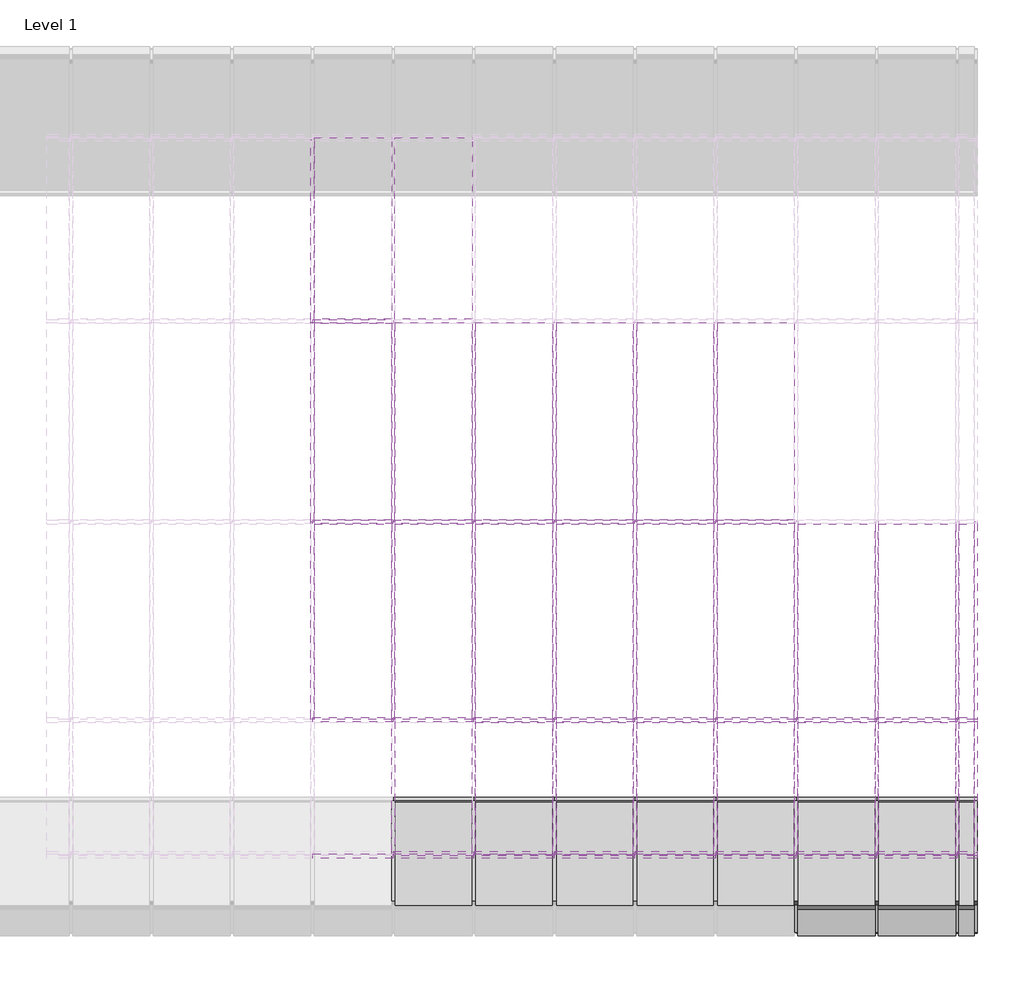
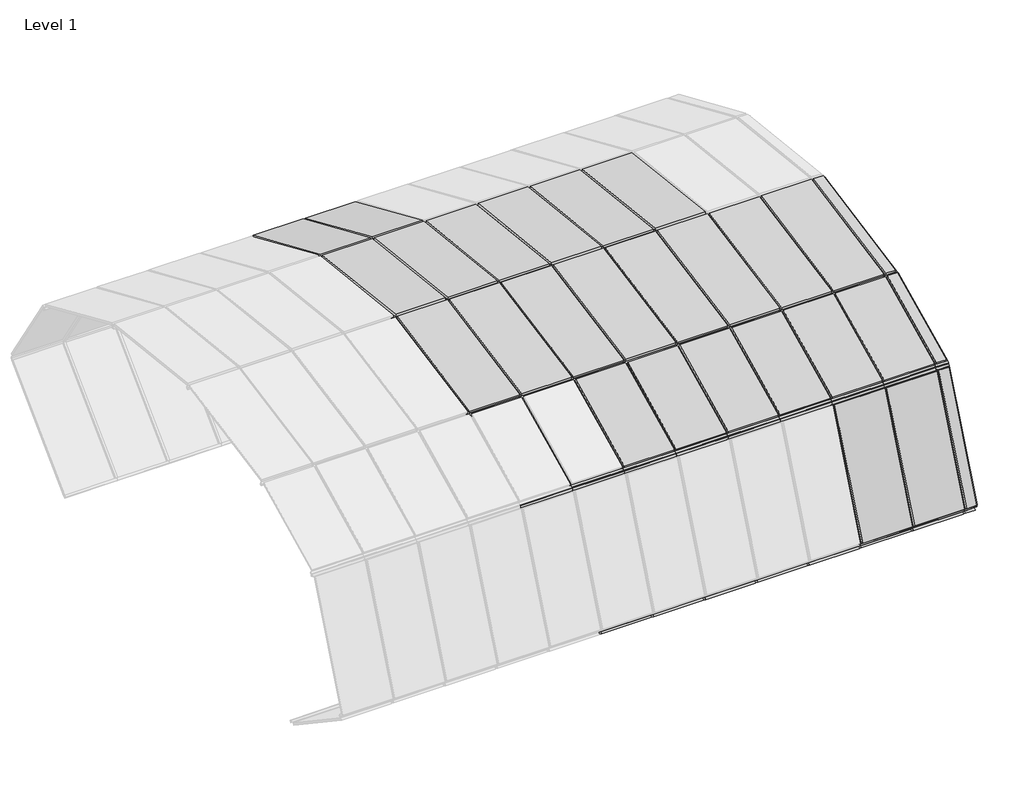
# One storey, part 21 of 23: 83 members, 35 plates.
"""IFC4 building model written with IfcOpenShell, lengths in millimetres."""

from ifc_helpers import new_model, si_unit, origin, place, context, project, spatial, transform, mapped, element, save
from components import member_0f8f75f6, member_68981e21, member_e752087b, member_3e1f1dd8, member_fea202f7, member_42213d33, member_1ddaab60, member_88d46f17, member_14e241b9, member_67cfadff, member_309acb9e, member_1d69e541, member_934386c6, system_panel_glazed_36155e08, system_panel_glazed_4484050c, system_panel_glazed_af514bd4, system_panel_glazed_680ba1d7, system_panel_glazed_e96a6bf3, system_panel_glazed_a8ce3bc7, system_panel_glazed_036eda8b, system_panel_glazed_d0e7d8c0

model = new_model("IFC4")

# Units and contexts
model_context = context("Model", 3, world=origin())
ifc_project = project(units=[si_unit("LENGTHUNIT", "METRE", prefix="MILLI")], contexts=[model_context])

# Site, building, storey
site = spatial("IfcSite", under=ifc_project)
building = spatial("IfcBuilding", under=site)
storey = spatial("IfcBuildingStorey", under=building, Name="Level 1", Elevation=0.0)

# Members
placement = place(None, origin())
member_shape = member_0f8f75f6(model_context)
element("IfcMember", 1, ObjectType="Rectangular Mullion : 1\" Square", at=placement, inside=storey, context=model_context, shape_type="MappedRepresentation", body=[
    mapped(member_shape, transform((1059.8500186, 2518.7804857, 14.1400027), x_axis=(1.0, 0.0, 0.0), y_axis=(0.0, -0.5566930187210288, -0.8307182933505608), z_axis=(0.0, 0.8307182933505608, -0.5566930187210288))),
])
element("IfcMember", 2, ObjectType="Rectangular Mullion : 1\" Square", at=placement, inside=storey, context=model_context, shape_type="MappedRepresentation", body=[
    mapped(member_shape, transform((1669.4500186, 2518.7804857, 14.1400027), x_axis=(1.0, 0.0, 0.0), y_axis=(0.0, -0.5566930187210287, -0.8307182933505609), z_axis=(0.0, 0.8307182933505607, -0.5566930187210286))),
])
element("IfcMember", 3, ObjectType="Rectangular Mullion : 1\" Square", at=placement, inside=storey, context=model_context, shape_type="MappedRepresentation", body=[
    mapped(member_shape, transform((2279.0500186, 2518.7804857, 14.1400027), x_axis=(1.0, 0.0, 0.0), y_axis=(0.0, -0.5566930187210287, -0.8307182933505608), z_axis=(0.0, 0.8307182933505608, -0.5566930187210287))),
])
element("IfcMember", 4, ObjectType="Rectangular Mullion : 1\" Square", at=placement, inside=storey, context=model_context, shape_type="MappedRepresentation", body=[
    mapped(member_shape, transform((2888.6500186, 2518.7804857, 14.1400027), x_axis=(1.0, 0.0, 0.0), y_axis=(0.0, -0.5566930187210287, -0.8307182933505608), z_axis=(0.0, 0.8307182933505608, -0.5566930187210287))),
])
element("IfcMember", 5, ObjectType="Rectangular Mullion : 1\" Square", at=placement, inside=storey, context=model_context, shape_type="MappedRepresentation", body=[
    mapped(member_shape, transform((3498.2500186, 2518.7804857, 14.1400027), x_axis=(1.0, 0.0, 0.0), y_axis=(0.0, -0.5566930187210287, -0.8307182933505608), z_axis=(0.0, 0.8307182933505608, -0.5566930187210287))),
])
element("IfcMember", 6, ObjectType="Rectangular Mullion : 1\" Square", at=placement, inside=storey, context=model_context, shape_type="MappedRepresentation", body=[
    mapped(member_shape, transform((4107.8500186, 2518.7804857, 14.1400027), x_axis=(1.0, 0.0, 0.0), y_axis=(0.0, -0.5566930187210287, -0.8307182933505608), z_axis=(0.0, 0.8307182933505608, -0.5566930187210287))),
])
element("IfcMember", 7, ObjectType="Rectangular Mullion : 1\" Square", at=placement, inside=storey, context=model_context, shape_type="MappedRepresentation", body=[
    mapped(member_shape, transform((4717.4500186, 2518.7804857, 14.1400027), x_axis=(1.0, 0.0, 0.0), y_axis=(0.0, -0.5566930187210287, -0.8307182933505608), z_axis=(0.0, 0.8307182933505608, -0.5566930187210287))),
])
member_2_shape = member_68981e21(model_context)
element("IfcMember", 8, ObjectType="Rectangular Mullion : 1\" Square", at=placement, inside=storey, context=model_context, shape_type="MappedRepresentation", body=[
    mapped(member_2_shape, transform((1059.8500186, 2539.8807303, 0.0), x_axis=(0.0, 0.8307182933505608, -0.5566930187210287), y_axis=(0.0, -0.5566930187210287, -0.8307182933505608), z_axis=(-1.0, 0.0, 0.0))),
])
element("IfcMember", 9, ObjectType="Rectangular Mullion : 1\" Square", at=placement, inside=storey, context=model_context, shape_type="MappedRepresentation", body=[
    mapped(member_2_shape, transform((1669.4500186, 2539.8807303, 0.0), x_axis=(0.0, 0.8307182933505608, -0.5566930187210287), y_axis=(0.0, -0.5566930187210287, -0.8307182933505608), z_axis=(-1.0, 0.0, 0.0))),
])
element("IfcMember", 10, ObjectType="Rectangular Mullion : 1\" Square", at=placement, inside=storey, context=model_context, shape_type="MappedRepresentation", body=[
    mapped(member_2_shape, transform((2279.0500186, 2539.8807303, 0.0), x_axis=(0.0, 0.8307182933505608, -0.5566930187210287), y_axis=(0.0, -0.5566930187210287, -0.8307182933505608), z_axis=(-1.0, 0.0, 0.0))),
])
element("IfcMember", 11, ObjectType="Rectangular Mullion : 1\" Square", at=placement, inside=storey, context=model_context, shape_type="MappedRepresentation", body=[
    mapped(member_2_shape, transform((2888.6500186, 2539.8807303, 0.0), x_axis=(0.0, 0.8307182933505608, -0.5566930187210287), y_axis=(0.0, -0.5566930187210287, -0.8307182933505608), z_axis=(-1.0, 0.0, 0.0))),
])
element("IfcMember", 12, ObjectType="Rectangular Mullion : 1\" Square", at=placement, inside=storey, context=model_context, shape_type="MappedRepresentation", body=[
    mapped(member_2_shape, transform((3498.2500186, 2539.8807303, 0.0), x_axis=(0.0, 0.8307182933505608, -0.5566930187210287), y_axis=(0.0, -0.5566930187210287, -0.8307182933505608), z_axis=(-1.0, 0.0, 0.0))),
])
element("IfcMember", 13, ObjectType="Rectangular Mullion : 1\" Square", at=placement, inside=storey, context=model_context, shape_type="MappedRepresentation", body=[
    mapped(member_2_shape, transform((4107.8500186, 2539.8807303, 0.0), x_axis=(0.0, 0.8307182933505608, -0.5566930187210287), y_axis=(0.0, -0.5566930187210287, -0.8307182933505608), z_axis=(-1.0, 0.0, 0.0))),
])
element("IfcMember", 14, ObjectType="Rectangular Mullion : 1\" Square", at=placement, inside=storey, context=model_context, shape_type="MappedRepresentation", body=[
    mapped(member_2_shape, transform((4717.4500186, 2539.8807303, 0.0), x_axis=(0.0, 0.8307182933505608, -0.5566930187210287), y_axis=(0.0, -0.5566930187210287, -0.8307182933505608), z_axis=(-1.0, 0.0, 0.0))),
])
element("IfcMember", 15, ObjectType="Rectangular Mullion : 1\" Square", at=placement, inside=storey, context=model_context, shape_type="MappedRepresentation", body=[
    mapped(member_2_shape, transform((1059.8500186, 2108.5088854, 2085.6089632), x_axis=(0.0, -0.9009025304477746, -0.4340214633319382), y_axis=(0.0, -0.4340214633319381, 0.9009025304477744), z_axis=(-1.0, 0.0, 0.0))),
])
element("IfcMember", 16, ObjectType="Rectangular Mullion : 1\" Square", at=placement, inside=storey, context=model_context, shape_type="MappedRepresentation", body=[
    mapped(member_2_shape, transform((1669.4500186, 2108.5088854, 2085.6089632), x_axis=(0.0, -0.9009025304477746, -0.4340214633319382), y_axis=(0.0, -0.4340214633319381, 0.9009025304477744), z_axis=(-1.0, 0.0, 0.0))),
])
element("IfcMember", 17, ObjectType="Rectangular Mullion : 1\" Square", at=placement, inside=storey, context=model_context, shape_type="MappedRepresentation", body=[
    mapped(member_2_shape, transform((2279.0500186, 2108.5088854, 2085.6089632), x_axis=(0.0, -0.9009025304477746, -0.4340214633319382), y_axis=(0.0, -0.4340214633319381, 0.9009025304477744), z_axis=(-1.0, 0.0, 0.0))),
])
element("IfcMember", 18, ObjectType="Rectangular Mullion : 1\" Square", at=placement, inside=storey, context=model_context, shape_type="MappedRepresentation", body=[
    mapped(member_2_shape, transform((2888.6500186, 2108.5088854, 2085.6089632), x_axis=(0.0, -0.9009025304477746, -0.4340214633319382), y_axis=(0.0, -0.4340214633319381, 0.9009025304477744), z_axis=(-1.0, 0.0, 0.0))),
])
element("IfcMember", 19, ObjectType="Rectangular Mullion : 1\" Square", at=placement, inside=storey, context=model_context, shape_type="MappedRepresentation", body=[
    mapped(member_2_shape, transform((3498.2500186, 2108.5088854, 2085.6089632), x_axis=(0.0, -0.9009025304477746, -0.4340214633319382), y_axis=(0.0, -0.4340214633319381, 0.9009025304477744), z_axis=(-1.0, 0.0, 0.0))),
])
element("IfcMember", 20, ObjectType="Rectangular Mullion : 1\" Square", at=placement, inside=storey, context=model_context, shape_type="MappedRepresentation", body=[
    mapped(member_2_shape, transform((4107.8500186, 2108.5088854, 2085.6089632), x_axis=(0.0, -0.9009025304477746, -0.4340214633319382), y_axis=(0.0, -0.4340214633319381, 0.9009025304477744), z_axis=(-1.0, 0.0, 0.0))),
])
element("IfcMember", 21, ObjectType="Rectangular Mullion : 1\" Square", at=placement, inside=storey, context=model_context, shape_type="MappedRepresentation", body=[
    mapped(member_2_shape, transform((4717.4500186, 2108.5088854, 2085.6089632), x_axis=(0.0, -0.9009025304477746, -0.4340214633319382), y_axis=(0.0, -0.4340214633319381, 0.9009025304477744), z_axis=(-1.0, 0.0, 0.0))),
])
member_3_shape = member_e752087b(model_context)
element("IfcMember", 22, ObjectType="Rectangular Mullion : 1\" Square", at=placement, inside=storey, context=model_context, shape_type="MappedRepresentation", body=[
    mapped(member_3_shape, transform((5327.0500186, 2539.8807303, 0.0), x_axis=(0.0, 0.8307182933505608, -0.5566930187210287), y_axis=(0.0, -0.5566930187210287, -0.8307182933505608), z_axis=(-1.0, 0.0, 0.0))),
])
element("IfcMember", 23, ObjectType="Rectangular Mullion : 1\" Square", at=placement, inside=storey, context=model_context, shape_type="MappedRepresentation", body=[
    mapped(member_3_shape, transform((5327.0500186, 2108.5088854, 2085.6089632), x_axis=(0.0, -0.9009025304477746, -0.4340214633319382), y_axis=(0.0, -0.4340214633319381, 0.9009025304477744), z_axis=(-1.0, 0.0, 0.0))),
])
member_4_shape = member_3e1f1dd8(model_context)
element("IfcMember", 24, ObjectType="Rectangular Mullion : 1\" Square", at=placement, inside=storey, context=model_context, shape_type="MappedRepresentation", body=[
    mapped(member_4_shape, transform((4107.8500186, 1534.1192339, 673.9955146), x_axis=(0.0, 0.38018576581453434, -0.9249101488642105), y_axis=(0.0, -0.9249101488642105, -0.38018576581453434), z_axis=(-1.0, 0.0, 0.0))),
])
element("IfcMember", 25, ObjectType="Rectangular Mullion : 1\" Square", at=placement, inside=storey, context=model_context, shape_type="MappedRepresentation", body=[
    mapped(member_4_shape, transform((4717.4500186, 1534.1192339, 673.9955146), x_axis=(0.0, 0.38018576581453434, -0.9249101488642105), y_axis=(0.0, -0.9249101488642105, -0.38018576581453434), z_axis=(-1.0, 0.0, 0.0))),
])
element("IfcMember", 26, ObjectType="Rectangular Mullion : 1\" Square", at=placement, inside=storey, context=model_context, shape_type="MappedRepresentation", body=[
    mapped(member_4_shape, transform((450.2500186, 4631.6132499, 2864.1651971), x_axis=(0.0, -0.9992773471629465, -0.038010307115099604), y_axis=(0.0, -0.038010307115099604, 0.9992773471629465), z_axis=(-1.0, 0.0, 0.0))),
])
element("IfcMember", 27, ObjectType="Rectangular Mullion : 1\" Square", at=placement, inside=storey, context=model_context, shape_type="MappedRepresentation", body=[
    mapped(member_4_shape, transform((1059.8500186, 4631.6132499, 2864.1651971), x_axis=(0.0, -0.9992773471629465, -0.038010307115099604), y_axis=(0.0, -0.038010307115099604, 0.9992773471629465), z_axis=(-1.0, 0.0, 0.0))),
])
element("IfcMember", 28, ObjectType="Rectangular Mullion : 1\" Square", at=placement, inside=storey, context=model_context, shape_type="MappedRepresentation", body=[
    mapped(member_4_shape, transform((1669.4500186, 4631.6132499, 2864.1651971), x_axis=(0.0, -0.9992773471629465, -0.038010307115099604), y_axis=(0.0, -0.038010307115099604, 0.9992773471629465), z_axis=(-1.0, 0.0, 0.0))),
])
element("IfcMember", 29, ObjectType="Rectangular Mullion : 1\" Square", at=placement, inside=storey, context=model_context, shape_type="MappedRepresentation", body=[
    mapped(member_4_shape, transform((2279.0500186, 4631.6132499, 2864.1651971), x_axis=(0.0, -0.9992773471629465, -0.038010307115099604), y_axis=(0.0, -0.038010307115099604, 0.9992773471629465), z_axis=(-1.0, 0.0, 0.0))),
])
element("IfcMember", 30, ObjectType="Rectangular Mullion : 1\" Square", at=placement, inside=storey, context=model_context, shape_type="MappedRepresentation", body=[
    mapped(member_4_shape, transform((2888.6500186, 4631.6132499, 2864.1651971), x_axis=(0.0, -0.9992773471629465, -0.038010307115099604), y_axis=(0.0, -0.038010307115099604, 0.9992773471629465), z_axis=(-1.0, 0.0, 0.0))),
])
element("IfcMember", 31, ObjectType="Rectangular Mullion : 1\" Square", at=placement, inside=storey, context=model_context, shape_type="MappedRepresentation", body=[
    mapped(member_4_shape, transform((3498.2500186, 4631.6132499, 2864.1651971), x_axis=(0.0, -0.9992773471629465, -0.038010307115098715), y_axis=(0.0, -0.038010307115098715, 0.9992773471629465), z_axis=(-1.0, 0.0, 0.0))),
])
element("IfcMember", 32, ObjectType="Rectangular Mullion : 1\" Square", at=placement, inside=storey, context=model_context, shape_type="MappedRepresentation", body=[
    mapped(member_4_shape, transform((450.2500186, 3134.3722562, 2579.8319299), x_axis=(0.0, -0.9436447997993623, -0.3309599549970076), y_axis=(0.0, -0.3309599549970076, 0.9436447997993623), z_axis=(-1.0, 0.0, 0.0))),
])
element("IfcMember", 33, ObjectType="Rectangular Mullion : 1\" Square", at=placement, inside=storey, context=model_context, shape_type="MappedRepresentation", body=[
    mapped(member_4_shape, transform((1059.8500186, 3134.3722562, 2579.8319299), x_axis=(0.0, -0.9436447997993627, -0.33095995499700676), y_axis=(0.0, -0.33095995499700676, 0.9436447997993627), z_axis=(-1.0, 0.0, 0.0))),
])
element("IfcMember", 34, ObjectType="Rectangular Mullion : 1\" Square", at=placement, inside=storey, context=model_context, shape_type="MappedRepresentation", body=[
    mapped(member_4_shape, transform((1669.4500186, 3134.3722562, 2579.8319299), x_axis=(0.0, -0.9436447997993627, -0.33095995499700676), y_axis=(0.0, -0.33095995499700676, 0.9436447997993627), z_axis=(-1.0, 0.0, 0.0))),
])
element("IfcMember", 35, ObjectType="Rectangular Mullion : 1\" Square", at=placement, inside=storey, context=model_context, shape_type="MappedRepresentation", body=[
    mapped(member_4_shape, transform((2279.0500186, 3134.3722562, 2579.8319299), x_axis=(0.0, -0.9436447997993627, -0.33095995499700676), y_axis=(0.0, -0.33095995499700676, 0.9436447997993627), z_axis=(-1.0, 0.0, 0.0))),
])
element("IfcMember", 36, ObjectType="Rectangular Mullion : 1\" Square", at=placement, inside=storey, context=model_context, shape_type="MappedRepresentation", body=[
    mapped(member_4_shape, transform((2888.6500186, 3134.3722562, 2579.8319299), x_axis=(0.0, -0.9436447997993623, -0.3309599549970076), y_axis=(0.0, -0.3309599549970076, 0.9436447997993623), z_axis=(-1.0, 0.0, 0.0))),
])
element("IfcMember", 37, ObjectType="Rectangular Mullion : 1\" Square", at=placement, inside=storey, context=model_context, shape_type="MappedRepresentation", body=[
    mapped(member_4_shape, transform((3498.2500186, 3134.3722562, 2579.8319299), x_axis=(0.0, -0.9436447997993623, -0.3309599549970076), y_axis=(0.0, -0.3309599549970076, 0.9436447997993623), z_axis=(-1.0, 0.0, 0.0))),
])
element("IfcMember", 38, ObjectType="Rectangular Mullion : 1\" Square", at=placement, inside=storey, context=model_context, shape_type="MappedRepresentation", body=[
    mapped(member_4_shape, transform((4107.8500186, 3134.3722562, 2579.8319299), x_axis=(0.0, -0.9436447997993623, -0.3309599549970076), y_axis=(0.0, -0.3309599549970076, 0.9436447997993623), z_axis=(-1.0, 0.0, 0.0))),
])
element("IfcMember", 39, ObjectType="Rectangular Mullion : 1\" Square", at=placement, inside=storey, context=model_context, shape_type="MappedRepresentation", body=[
    mapped(member_4_shape, transform((4717.4500186, 3134.3722562, 2579.8319299), x_axis=(0.0, -0.9436447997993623, -0.3309599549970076), y_axis=(0.0, -0.3309599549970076, 0.9436447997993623), z_axis=(-1.0, 0.0, 0.0))),
])
member_5_shape = member_fea202f7(model_context)
element("IfcMember", 40, ObjectType="Rectangular Mullion : 1\" Square", at=placement, inside=storey, context=model_context, shape_type="MappedRepresentation", body=[
    mapped(member_5_shape, transform((5327.0500186, 1534.1192339, 673.9955146), x_axis=(0.0, 0.38018576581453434, -0.9249101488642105), y_axis=(0.0, -0.9249101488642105, -0.38018576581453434), z_axis=(-1.0, 0.0, 0.0))),
])
element("IfcMember", 41, ObjectType="Rectangular Mullion : 1\" Square", at=placement, inside=storey, context=model_context, shape_type="MappedRepresentation", body=[
    mapped(member_5_shape, transform((5327.0500186, 3134.3722562, 2579.8319299), x_axis=(0.0, -0.9436447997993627, -0.33095995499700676), y_axis=(0.0, -0.33095995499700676, 0.9436447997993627), z_axis=(-1.0, 0.0, 0.0))),
])
member_6_shape = member_42213d33(model_context)
element("IfcMember", 42, ObjectType="Rectangular Mullion : 1\" Square", at=placement, inside=storey, context=model_context, shape_type="MappedRepresentation", body=[
    mapped(member_6_shape, transform((4107.8500186, 1538.9058143, 685.75896), x_axis=(1.0, 0.0, 0.0), y_axis=(0.0, -0.9262555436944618, 0.37689609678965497), z_axis=(0.0, -0.37689609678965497, -0.9262555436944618))),
])
element("IfcMember", 43, ObjectType="Rectangular Mullion : 1\" Square", at=placement, inside=storey, context=model_context, shape_type="MappedRepresentation", body=[
    mapped(member_6_shape, transform((4717.4500186, 1538.9058143, 685.75896), x_axis=(1.0, 0.0, 0.0), y_axis=(0.0, -0.9262555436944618, 0.37689609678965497), z_axis=(0.0, -0.37689609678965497, -0.9262555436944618))),
])
member_7_shape = member_1ddaab60(model_context)
element("IfcMember", 44, ObjectType="Rectangular Mullion : 1\" Square", at=placement, inside=storey, context=model_context, shape_type="MappedRepresentation", body=[
    mapped(member_7_shape, transform((5479.4500186, 2518.7804857, 14.1400027), x_axis=(1.0, 0.0, 0.0), y_axis=(0.0, -0.5566930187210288, -0.8307182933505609), z_axis=(0.0, 0.8307182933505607, -0.5566930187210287))),
])
element("IfcMember", 45, ObjectType="Rectangular Mullion : 1\" Square", at=placement, inside=storey, context=model_context, shape_type="MappedRepresentation", body=[
    mapped(member_6_shape, transform((5327.0500186, 1538.9058143, 685.75896), x_axis=(1.0, 0.0, 0.0), y_axis=(0.0, -0.9262555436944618, 0.37689609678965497), z_axis=(0.0, -0.37689609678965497, -0.9262555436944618))),
])
element("IfcMember", 46, ObjectType="Rectangular Mullion : 1\" Square", at=placement, inside=storey, context=model_context, shape_type="MappedRepresentation", body=[
    mapped(member_shape, transform((5327.0500186, 2518.7804857, 14.1400027), x_axis=(1.0, 0.0, 0.0), y_axis=(0.0, -0.5566930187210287, -0.8307182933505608), z_axis=(0.0, 0.8307182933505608, -0.5566930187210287))),
])
member_8_shape = member_88d46f17(model_context)
element("IfcMember", 47, ObjectType="Rectangular Mullion : 1\" Square", at=placement, inside=storey, context=model_context, shape_type="MappedRepresentation", body=[
    mapped(member_8_shape, transform((5479.4500186, 1538.9058143, 685.75896), x_axis=(1.0, 0.0, 0.0), y_axis=(0.0, -0.9262555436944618, 0.37689609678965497), z_axis=(0.0, -0.37689609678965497, -0.9262555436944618))),
])
element("IfcMember", 48, ObjectType="Rectangular Mullion : 1\" Square", at=placement, inside=storey, context=model_context, shape_type="MappedRepresentation", body=[
    mapped(member_3_shape, transform((5479.4500186, 2108.5088854, 2085.6089632), x_axis=(0.0, 0.37689609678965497, 0.9262555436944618), y_axis=(0.0, -0.9262555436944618, 0.37689609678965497), z_axis=(1.0, 0.0, 0.0))),
])
element("IfcMember", 49, ObjectType="Rectangular Mullion : 1\" Square", at=placement, inside=storey, context=model_context, shape_type="MappedRepresentation", body=[
    mapped(member_2_shape, transform((1059.8500186, 2108.5088854, 2085.6089632), x_axis=(0.0, 0.37689609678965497, 0.9262555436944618), y_axis=(0.0, -0.9262555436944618, 0.37689609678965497), z_axis=(1.0, 0.0, 0.0))),
])
element("IfcMember", 50, ObjectType="Rectangular Mullion : 1\" Square", at=placement, inside=storey, context=model_context, shape_type="MappedRepresentation", body=[
    mapped(member_2_shape, transform((1669.4500186, 2108.5088854, 2085.6089632), x_axis=(0.0, 0.37689609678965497, 0.9262555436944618), y_axis=(0.0, -0.9262555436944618, 0.37689609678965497), z_axis=(1.0, 0.0, 0.0))),
])
element("IfcMember", 51, ObjectType="Rectangular Mullion : 1\" Square", at=placement, inside=storey, context=model_context, shape_type="MappedRepresentation", body=[
    mapped(member_2_shape, transform((2279.0500186, 2108.5088854, 2085.6089632), x_axis=(0.0, 0.37689609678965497, 0.9262555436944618), y_axis=(0.0, -0.9262555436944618, 0.37689609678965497), z_axis=(1.0, 0.0, 0.0))),
])
element("IfcMember", 52, ObjectType="Rectangular Mullion : 1\" Square", at=placement, inside=storey, context=model_context, shape_type="MappedRepresentation", body=[
    mapped(member_2_shape, transform((2888.6500186, 2108.5088854, 2085.6089632), x_axis=(0.0, 0.37689609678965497, 0.9262555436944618), y_axis=(0.0, -0.9262555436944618, 0.37689609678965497), z_axis=(1.0, 0.0, 0.0))),
])
element("IfcMember", 53, ObjectType="Rectangular Mullion : 1\" Square", at=placement, inside=storey, context=model_context, shape_type="MappedRepresentation", body=[
    mapped(member_2_shape, transform((3498.2500186, 2108.5088854, 2085.6089632), x_axis=(0.0, 0.37689609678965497, 0.9262555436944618), y_axis=(0.0, -0.9262555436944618, 0.37689609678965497), z_axis=(1.0, 0.0, 0.0))),
])
element("IfcMember", 54, ObjectType="Rectangular Mullion : 1\" Square", at=placement, inside=storey, context=model_context, shape_type="MappedRepresentation", body=[
    mapped(member_2_shape, transform((4107.8500186, 2108.5088854, 2085.6089632), x_axis=(0.0, 0.37689609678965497, 0.9262555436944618), y_axis=(0.0, -0.9262555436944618, 0.37689609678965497), z_axis=(1.0, 0.0, 0.0))),
])
element("IfcMember", 55, ObjectType="Rectangular Mullion : 1\" Square", at=placement, inside=storey, context=model_context, shape_type="MappedRepresentation", body=[
    mapped(member_2_shape, transform((4717.4500186, 2108.5088854, 2085.6089632), x_axis=(0.0, 0.37689609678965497, 0.9262555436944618), y_axis=(0.0, -0.9262555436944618, 0.37689609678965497), z_axis=(1.0, 0.0, 0.0))),
])
element("IfcMember", 56, ObjectType="Rectangular Mullion : 1\" Square", at=placement, inside=storey, context=model_context, shape_type="MappedRepresentation", body=[
    mapped(member_2_shape, transform((5327.0500186, 2108.5088854, 2085.6089632), x_axis=(0.0, 0.37689609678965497, 0.9262555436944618), y_axis=(0.0, -0.9262555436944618, 0.37689609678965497), z_axis=(1.0, 0.0, 0.0))),
])
element("IfcMember", 57, ObjectType="Rectangular Mullion : 1\" Square", at=placement, inside=storey, context=model_context, shape_type="MappedRepresentation", body=[
    mapped(member_4_shape, transform((450.2500186, 6146.1274349, 2694.3924567), x_axis=(0.0, -0.9660596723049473, 0.25831900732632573), y_axis=(0.0, 0.2583190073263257, 0.966059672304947), z_axis=(-1.0, 0.0, 0.0))),
])
member_9_shape = member_14e241b9(model_context)
element("IfcMember", 58, ObjectType="Rectangular Mullion : 1\" Square", at=placement, inside=storey, context=model_context, shape_type="MappedRepresentation", body=[
    mapped(member_9_shape, transform((1059.8500186, 2131.3918096, 2096.6331083), x_axis=(1.0, 0.0, 0.0), y_axis=(0.0, -0.43402146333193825, 0.9009025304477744), z_axis=(0.0, -0.9009025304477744, -0.43402146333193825))),
])
element("IfcMember", 59, ObjectType="Rectangular Mullion : 1\" Square", at=placement, inside=storey, context=model_context, shape_type="MappedRepresentation", body=[
    mapped(member_9_shape, transform((1669.4500186, 2131.3918096, 2096.6331083), x_axis=(1.0, 0.0, 0.0), y_axis=(0.0, -0.43402146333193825, 0.9009025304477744), z_axis=(0.0, -0.9009025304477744, -0.43402146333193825))),
])
element("IfcMember", 60, ObjectType="Rectangular Mullion : 1\" Square", at=placement, inside=storey, context=model_context, shape_type="MappedRepresentation", body=[
    mapped(member_9_shape, transform((2279.0500186, 2131.3918096, 2096.6331083), x_axis=(1.0, 0.0, 0.0), y_axis=(0.0, -0.43402146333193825, 0.9009025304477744), z_axis=(0.0, -0.9009025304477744, -0.43402146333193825))),
])
element("IfcMember", 61, ObjectType="Rectangular Mullion : 1\" Square", at=placement, inside=storey, context=model_context, shape_type="MappedRepresentation", body=[
    mapped(member_9_shape, transform((2888.6500186, 2131.3918096, 2096.6331083), x_axis=(1.0, 0.0, 0.0), y_axis=(0.0, -0.4340214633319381, 0.9009025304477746), z_axis=(0.0, -0.9009025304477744, -0.434021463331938))),
])
element("IfcMember", 62, ObjectType="Rectangular Mullion : 1\" Square", at=placement, inside=storey, context=model_context, shape_type="MappedRepresentation", body=[
    mapped(member_9_shape, transform((3498.2500186, 2131.3918096, 2096.6331083), x_axis=(1.0, 0.0, 0.0), y_axis=(0.0, -0.4340214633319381, 0.9009025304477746), z_axis=(0.0, -0.9009025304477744, -0.434021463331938))),
])
element("IfcMember", 63, ObjectType="Rectangular Mullion : 1\" Square", at=placement, inside=storey, context=model_context, shape_type="MappedRepresentation", body=[
    mapped(member_9_shape, transform((4107.8500186, 2131.3918096, 2096.6331083), x_axis=(1.0, 0.0, 0.0), y_axis=(0.0, -0.4340214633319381, 0.9009025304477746), z_axis=(0.0, -0.9009025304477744, -0.434021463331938))),
])
element("IfcMember", 64, ObjectType="Rectangular Mullion : 1\" Square", at=placement, inside=storey, context=model_context, shape_type="MappedRepresentation", body=[
    mapped(member_9_shape, transform((4717.4500186, 2131.3918096, 2096.6331083), x_axis=(1.0, 0.0, 0.0), y_axis=(0.0, -0.4340214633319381, 0.9009025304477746), z_axis=(0.0, -0.9009025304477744, -0.434021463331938))),
])
member_10_shape = member_67cfadff(model_context)
element("IfcMember", 65, ObjectType="Rectangular Mullion : 1\" Square", at=placement, inside=storey, context=model_context, shape_type="MappedRepresentation", body=[
    mapped(member_10_shape, transform((450.2500186, 6157.7701444, 2689.3192609), x_axis=(0.9999999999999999, 0.0, 0.0), y_axis=(0.0, 0.3994642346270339, 0.9167487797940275), z_axis=(0.0, -0.9167487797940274, 0.39946423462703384))),
])
member_11_shape = member_309acb9e(model_context)
element("IfcMember", 66, ObjectType="Rectangular Mullion : 1\" Square", at=placement, inside=storey, context=model_context, shape_type="MappedRepresentation", body=[
    mapped(member_11_shape, transform((450.2500186, 4644.2342014, 2862.7504243), x_axis=(0.9999999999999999, 0.0, 0.0), y_axis=(0.0, 0.11139943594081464, 0.9937757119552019), z_axis=(0.0, -0.9937757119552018, 0.11139943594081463))),
])
element("IfcMember", 67, ObjectType="Rectangular Mullion : 1\" Square", at=placement, inside=storey, context=model_context, shape_type="MappedRepresentation", body=[
    mapped(member_11_shape, transform((1059.8500186, 4644.2342014, 2862.7504243), x_axis=(1.0, 0.0, 0.0), y_axis=(0.0, 0.11139943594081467, 0.9937757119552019), z_axis=(0.0, -0.9937757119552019, 0.11139943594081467))),
])
element("IfcMember", 68, ObjectType="Rectangular Mullion : 1\" Square", at=placement, inside=storey, context=model_context, shape_type="MappedRepresentation", body=[
    mapped(member_11_shape, transform((1669.4500186, 4644.2342014, 2862.7504243), x_axis=(1.0, 0.0, 0.0), y_axis=(0.0, 0.11139943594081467, 0.9937757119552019), z_axis=(0.0, -0.9937757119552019, 0.11139943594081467))),
])
element("IfcMember", 69, ObjectType="Rectangular Mullion : 1\" Square", at=placement, inside=storey, context=model_context, shape_type="MappedRepresentation", body=[
    mapped(member_11_shape, transform((2279.0500186, 4644.2342014, 2862.7504243), x_axis=(1.0, 0.0, 0.0), y_axis=(0.0, 0.11139943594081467, 0.9937757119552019), z_axis=(0.0, -0.9937757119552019, 0.11139943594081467))),
])
element("IfcMember", 70, ObjectType="Rectangular Mullion : 1\" Square", at=placement, inside=storey, context=model_context, shape_type="MappedRepresentation", body=[
    mapped(member_11_shape, transform((2888.6500186, 4644.2342014, 2862.7504243), x_axis=(1.0, 0.0, 0.0), y_axis=(0.0, 0.11139943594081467, 0.9937757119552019), z_axis=(0.0, -0.9937757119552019, 0.11139943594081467))),
])
element("IfcMember", 71, ObjectType="Rectangular Mullion : 1\" Square", at=placement, inside=storey, context=model_context, shape_type="MappedRepresentation", body=[
    mapped(member_11_shape, transform((3498.2500186, 4644.2342014, 2862.7504243), x_axis=(0.9999999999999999, 0.0, 0.0), y_axis=(0.0, 0.11139943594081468, 0.993775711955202), z_axis=(0.0, -0.9937757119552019, 0.11139943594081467))),
])
element("IfcMember", 72, ObjectType="Rectangular Mullion : 1\" Square", at=placement, inside=storey, context=model_context, shape_type="MappedRepresentation", body=[
    mapped(member_11_shape, transform((450.2500186, 3146.8492645, 2582.2013738), x_axis=(0.9999999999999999, 0.0, 0.0), y_axis=(0.0, -0.18657038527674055, 0.9824415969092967), z_axis=(0.0, -0.9824415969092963, -0.1865703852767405))),
])
element("IfcMember", 73, ObjectType="Rectangular Mullion : 1\" Square", at=placement, inside=storey, context=model_context, shape_type="MappedRepresentation", body=[
    mapped(member_11_shape, transform((1059.8500186, 3146.8492645, 2582.2013738), x_axis=(0.9999999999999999, 0.0, 0.0), y_axis=(0.0, -0.18657038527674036, 0.9824415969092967), z_axis=(0.0, -0.9824415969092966, -0.18657038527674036))),
])
element("IfcMember", 74, ObjectType="Rectangular Mullion : 1\" Square", at=placement, inside=storey, context=model_context, shape_type="MappedRepresentation", body=[
    mapped(member_11_shape, transform((1669.4500186, 3146.8492645, 2582.2013738), x_axis=(0.9999999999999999, 0.0, 0.0), y_axis=(0.0, -0.18657038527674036, 0.9824415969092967), z_axis=(0.0, -0.9824415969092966, -0.18657038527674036))),
])
element("IfcMember", 75, ObjectType="Rectangular Mullion : 1\" Square", at=placement, inside=storey, context=model_context, shape_type="MappedRepresentation", body=[
    mapped(member_11_shape, transform((2279.0500186, 3146.8492645, 2582.2013738), x_axis=(0.9999999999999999, 0.0, 0.0), y_axis=(0.0, -0.18657038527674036, 0.9824415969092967), z_axis=(0.0, -0.9824415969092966, -0.18657038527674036))),
])
element("IfcMember", 76, ObjectType="Rectangular Mullion : 1\" Square", at=placement, inside=storey, context=model_context, shape_type="MappedRepresentation", body=[
    mapped(member_11_shape, transform((2888.6500186, 3146.8492645, 2582.2013738), x_axis=(0.9999999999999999, 0.0, 0.0), y_axis=(0.0, -0.18657038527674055, 0.9824415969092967), z_axis=(0.0, -0.9824415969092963, -0.1865703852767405))),
])
element("IfcMember", 77, ObjectType="Rectangular Mullion : 1\" Square", at=placement, inside=storey, context=model_context, shape_type="MappedRepresentation", body=[
    mapped(member_11_shape, transform((3498.2500186, 3146.8492645, 2582.2013738), x_axis=(0.9999999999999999, 0.0, 0.0), y_axis=(0.0, -0.18657038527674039, 0.9824415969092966), z_axis=(0.0, -0.9824415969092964, -0.18657038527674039))),
])
element("IfcMember", 78, ObjectType="Rectangular Mullion : 1\" Square", at=placement, inside=storey, context=model_context, shape_type="MappedRepresentation", body=[
    mapped(member_11_shape, transform((4107.8500186, 3146.8492645, 2582.2013738), x_axis=(0.9999999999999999, 0.0, 0.0), y_axis=(0.0, -0.1865703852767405, 0.9824415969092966), z_axis=(0.0, -0.9824415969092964, -0.1865703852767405))),
])
element("IfcMember", 79, ObjectType="Rectangular Mullion : 1\" Square", at=placement, inside=storey, context=model_context, shape_type="MappedRepresentation", body=[
    mapped(member_11_shape, transform((4717.4500186, 3146.8492645, 2582.2013738), x_axis=(0.9999999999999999, 0.0, 0.0), y_axis=(0.0, -0.1865703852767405, 0.9824415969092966), z_axis=(0.0, -0.9824415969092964, -0.1865703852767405))),
])
element("IfcMember", 80, ObjectType="Rectangular Mullion : 1\" Square", at=placement, inside=storey, context=model_context, shape_type="MappedRepresentation", body=[
    mapped(member_11_shape, transform((5327.0500186, 3146.8492645, 2582.2013738), x_axis=(1.0, 0.0, 0.0), y_axis=(0.0, -0.18657038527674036, 0.9824415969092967), z_axis=(0.0, -0.9824415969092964, -0.18657038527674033))),
])
element("IfcMember", 81, ObjectType="Rectangular Mullion : 1\" Square", at=placement, inside=storey, context=model_context, shape_type="MappedRepresentation", body=[
    mapped(member_9_shape, transform((5327.0500186, 2131.3918096, 2096.6331083), x_axis=(1.0, 0.0, 0.0), y_axis=(0.0, -0.4340214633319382, 0.9009025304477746), z_axis=(0.0, -0.9009025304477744, -0.4340214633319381))),
])
member_12_shape = member_1d69e541(model_context)
element("IfcMember", 82, ObjectType="Rectangular Mullion : 1\" Square", at=placement, inside=storey, context=model_context, shape_type="MappedRepresentation", body=[
    mapped(member_12_shape, transform((5479.4500186, 3146.8492645, 2582.2013738), x_axis=(1.0, 0.0, 0.0), y_axis=(0.0, -0.18657038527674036, 0.9824415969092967), z_axis=(0.0, -0.9824415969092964, -0.18657038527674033))),
])
member_13_shape = member_934386c6(model_context)
element("IfcMember", 83, ObjectType="Rectangular Mullion : 1\" Square", at=placement, inside=storey, context=model_context, shape_type="MappedRepresentation", body=[
    mapped(member_13_shape, transform((5479.4500186, 2131.3918096, 2096.6331083), x_axis=(1.0, 0.0, 0.0), y_axis=(0.0, -0.4340214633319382, 0.9009025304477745), z_axis=(0.0, -0.9009025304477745, -0.4340214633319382))),
])

# Plates
system_panel_glazed_shape = system_panel_glazed_36155e08(model_context)
element("IfcPlate", 84, ObjectType="System Panel : Glazed", at=placement, inside=storey, context=model_context, shape_type="MappedRepresentation", body=[
    mapped(system_panel_glazed_shape, transform((462.9500186, 6838.8686503, 2392.5373078), x_axis=(0.0, -0.9167487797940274, 0.39946423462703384), y_axis=(0.0, -0.39946423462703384, -0.9167487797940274), z_axis=(1.0, 0.0, 0.0))),
])
element("IfcPlate", 85, ObjectType="System Panel : Glazed", at=placement, inside=storey, context=model_context, shape_type="MappedRepresentation", body=[
    mapped(system_panel_glazed_shape, transform((1072.5500186, 6838.8686503, 2392.5373078), x_axis=(0.0, -0.9167487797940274, 0.39946423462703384), y_axis=(0.0, -0.39946423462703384, -0.9167487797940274), z_axis=(1.0, 0.0, 0.0))),
])
element("IfcPlate", 86, ObjectType="System Panel : Glazed", at=placement, inside=storey, context=model_context, shape_type="MappedRepresentation", body=[
    mapped(system_panel_glazed_shape, transform((4120.5500186, 1818.9207694, 1373.9205162), x_axis=(0.0, -0.37689609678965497, -0.9262555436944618), y_axis=(0.0, 0.9262555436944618, -0.37689609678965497), z_axis=(1.0, 0.0, 0.0))),
])
element("IfcPlate", 87, ObjectType="System Panel : Glazed", at=placement, inside=storey, context=model_context, shape_type="MappedRepresentation", body=[
    mapped(system_panel_glazed_shape, transform((4730.1500186, 1818.9207694, 1373.9205162), x_axis=(0.0, -0.37689609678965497, -0.9262555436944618), y_axis=(0.0, 0.9262555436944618, -0.37689609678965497), z_axis=(1.0, 0.0, 0.0))),
])
system_panel_glazed_2_shape = system_panel_glazed_4484050c(model_context)
element("IfcPlate", 88, ObjectType="System Panel : Glazed", at=placement, inside=storey, context=model_context, shape_type="MappedRepresentation", body=[
    mapped(system_panel_glazed_2_shape, transform((1072.5500186, 2031.7249209, 340.532758), x_axis=(0.0, 0.8307182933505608, -0.5566930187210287), y_axis=(0.0, 0.5566930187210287, 0.8307182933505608), z_axis=(1.0, 0.0, 0.0))),
])
element("IfcPlate", 89, ObjectType="System Panel : Glazed", at=placement, inside=storey, context=model_context, shape_type="MappedRepresentation", body=[
    mapped(system_panel_glazed_2_shape, transform((1682.1500186, 2031.7249209, 340.532758), x_axis=(0.0, 0.8307182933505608, -0.5566930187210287), y_axis=(0.0, 0.5566930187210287, 0.8307182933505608), z_axis=(1.0, 0.0, 0.0))),
])
element("IfcPlate", 90, ObjectType="System Panel : Glazed", at=placement, inside=storey, context=model_context, shape_type="MappedRepresentation", body=[
    mapped(system_panel_glazed_2_shape, transform((2291.7500186, 2031.7249209, 340.532758), x_axis=(0.0, 0.8307182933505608, -0.5566930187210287), y_axis=(0.0, 0.5566930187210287, 0.8307182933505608), z_axis=(1.0, 0.0, 0.0))),
])
element("IfcPlate", 91, ObjectType="System Panel : Glazed", at=placement, inside=storey, context=model_context, shape_type="MappedRepresentation", body=[
    mapped(system_panel_glazed_2_shape, transform((2901.3500186, 2031.7249209, 340.532758), x_axis=(0.0, 0.8307182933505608, -0.5566930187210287), y_axis=(0.0, 0.5566930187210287, 0.8307182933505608), z_axis=(1.0, 0.0, 0.0))),
])
element("IfcPlate", 92, ObjectType="System Panel : Glazed", at=placement, inside=storey, context=model_context, shape_type="MappedRepresentation", body=[
    mapped(system_panel_glazed_2_shape, transform((3510.9500186, 2031.7249209, 340.532758), x_axis=(0.0, 0.8307182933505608, -0.5566930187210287), y_axis=(0.0, 0.5566930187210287, 0.8307182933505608), z_axis=(1.0, 0.0, 0.0))),
])
element("IfcPlate", 93, ObjectType="System Panel : Glazed", at=placement, inside=storey, context=model_context, shape_type="MappedRepresentation", body=[
    mapped(system_panel_glazed_2_shape, transform((4120.5500186, 2031.7249209, 340.532758), x_axis=(0.0, 0.8307182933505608, -0.5566930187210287), y_axis=(0.0, 0.5566930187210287, 0.8307182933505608), z_axis=(1.0, 0.0, 0.0))),
])
element("IfcPlate", 94, ObjectType="System Panel : Glazed", at=placement, inside=storey, context=model_context, shape_type="MappedRepresentation", body=[
    mapped(system_panel_glazed_2_shape, transform((4730.1500186, 2031.7249209, 340.532758), x_axis=(0.0, 0.8307182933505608, -0.5566930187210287), y_axis=(0.0, 0.5566930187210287, 0.8307182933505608), z_axis=(1.0, 0.0, 0.0))),
])
system_panel_glazed_3_shape = system_panel_glazed_af514bd4(model_context)
element("IfcPlate", 95, ObjectType="System Panel : Glazed", at=placement, inside=storey, context=model_context, shape_type="MappedRepresentation", body=[
    mapped(system_panel_glazed_3_shape, transform((5339.7500186, 1818.9207694, 1373.9205162), x_axis=(0.0, -0.37689609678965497, -0.9262555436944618), y_axis=(0.0, 0.9262555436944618, -0.37689609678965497), z_axis=(1.0, 0.0, 0.0))),
])
system_panel_glazed_4_shape = system_panel_glazed_680ba1d7(model_context)
element("IfcPlate", 96, ObjectType="System Panel : Glazed", at=placement, inside=storey, context=model_context, shape_type="MappedRepresentation", body=[
    mapped(system_panel_glazed_4_shape, transform((5339.7500186, 2031.7249209, 340.532758), x_axis=(0.0, 0.8307182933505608, -0.5566930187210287), y_axis=(0.0, 0.5566930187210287, 0.8307182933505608), z_axis=(1.0, 0.0, 0.0))),
])
system_panel_glazed_5_shape = system_panel_glazed_e96a6bf3(model_context)
element("IfcPlate", 97, ObjectType="System Panel : Glazed", at=placement, inside=storey, context=model_context, shape_type="MappedRepresentation", body=[
    mapped(system_panel_glazed_5_shape, transform((462.9500186, 5388.8703424, 2779.2788269), x_axis=(0.0, -0.993775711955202, 0.11139943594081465), y_axis=(0.0, -0.11139943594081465, -0.993775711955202), z_axis=(1.0, 0.0, 0.0))),
])
element("IfcPlate", 98, ObjectType="System Panel : Glazed", at=placement, inside=storey, context=model_context, shape_type="MappedRepresentation", body=[
    mapped(system_panel_glazed_5_shape, transform((462.9500186, 3882.992753, 2721.9985635), x_axis=(0.0, -0.9824415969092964, -0.18657038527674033), y_axis=(0.0, 0.18657038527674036, -0.9824415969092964), z_axis=(1.0, 0.0, 0.0))),
])
element("IfcPlate", 99, ObjectType="System Panel : Glazed", at=placement, inside=storey, context=model_context, shape_type="MappedRepresentation", body=[
    mapped(system_panel_glazed_5_shape, transform((1072.5500186, 5388.8703424, 2779.2788269), x_axis=(0.0, -0.993775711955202, 0.11139943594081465), y_axis=(0.0, -0.11139943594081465, -0.993775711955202), z_axis=(1.0, 0.0, 0.0))),
])
element("IfcPlate", 100, ObjectType="System Panel : Glazed", at=placement, inside=storey, context=model_context, shape_type="MappedRepresentation", body=[
    mapped(system_panel_glazed_5_shape, transform((1072.5500186, 3882.992753, 2721.9985635), x_axis=(0.0, -0.9824415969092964, -0.18657038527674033), y_axis=(0.0, 0.18657038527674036, -0.9824415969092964), z_axis=(1.0, 0.0, 0.0))),
])
element("IfcPlate", 101, ObjectType="System Panel : Glazed", at=placement, inside=storey, context=model_context, shape_type="MappedRepresentation", body=[
    mapped(system_panel_glazed_5_shape, transform((1682.1500186, 5388.8703424, 2779.2788269), x_axis=(0.0, -0.993775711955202, 0.11139943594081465), y_axis=(0.0, -0.11139943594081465, -0.993775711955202), z_axis=(1.0, 0.0, 0.0))),
])
element("IfcPlate", 102, ObjectType="System Panel : Glazed", at=placement, inside=storey, context=model_context, shape_type="MappedRepresentation", body=[
    mapped(system_panel_glazed_5_shape, transform((1682.1500186, 3882.992753, 2721.9985635), x_axis=(0.0, -0.9824415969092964, -0.18657038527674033), y_axis=(0.0, 0.18657038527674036, -0.9824415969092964), z_axis=(1.0, 0.0, 0.0))),
])
element("IfcPlate", 103, ObjectType="System Panel : Glazed", at=placement, inside=storey, context=model_context, shape_type="MappedRepresentation", body=[
    mapped(system_panel_glazed_5_shape, transform((2291.7500186, 5388.8703424, 2779.2788269), x_axis=(0.0, -0.993775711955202, 0.11139943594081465), y_axis=(0.0, -0.11139943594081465, -0.993775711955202), z_axis=(1.0, 0.0, 0.0))),
])
element("IfcPlate", 104, ObjectType="System Panel : Glazed", at=placement, inside=storey, context=model_context, shape_type="MappedRepresentation", body=[
    mapped(system_panel_glazed_5_shape, transform((2291.7500186, 3882.992753, 2721.9985635), x_axis=(0.0, -0.9824415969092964, -0.18657038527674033), y_axis=(0.0, 0.18657038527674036, -0.9824415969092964), z_axis=(1.0, 0.0, 0.0))),
])
element("IfcPlate", 105, ObjectType="System Panel : Glazed", at=placement, inside=storey, context=model_context, shape_type="MappedRepresentation", body=[
    mapped(system_panel_glazed_5_shape, transform((2901.3500186, 5388.8703424, 2779.2788269), x_axis=(0.0, -0.993775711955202, 0.11139943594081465), y_axis=(0.0, -0.11139943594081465, -0.993775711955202), z_axis=(1.0, 0.0, 0.0))),
])
element("IfcPlate", 106, ObjectType="System Panel : Glazed", at=placement, inside=storey, context=model_context, shape_type="MappedRepresentation", body=[
    mapped(system_panel_glazed_5_shape, transform((2901.3500186, 3882.992753, 2721.9985635), x_axis=(0.0, -0.9824415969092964, -0.18657038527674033), y_axis=(0.0, 0.18657038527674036, -0.9824415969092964), z_axis=(1.0, 0.0, 0.0))),
])
element("IfcPlate", 107, ObjectType="System Panel : Glazed", at=placement, inside=storey, context=model_context, shape_type="MappedRepresentation", body=[
    mapped(system_panel_glazed_5_shape, transform((3510.9500186, 5388.8703424, 2779.2788269), x_axis=(0.0, -0.993775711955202, 0.11139943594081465), y_axis=(0.0, -0.11139943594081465, -0.993775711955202), z_axis=(1.0, 0.0, 0.0))),
])
element("IfcPlate", 108, ObjectType="System Panel : Glazed", at=placement, inside=storey, context=model_context, shape_type="MappedRepresentation", body=[
    mapped(system_panel_glazed_5_shape, transform((3510.9500186, 3882.992753, 2721.9985635), x_axis=(0.0, -0.9824415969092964, -0.18657038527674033), y_axis=(0.0, 0.18657038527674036, -0.9824415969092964), z_axis=(1.0, 0.0, 0.0))),
])
element("IfcPlate", 109, ObjectType="System Panel : Glazed", at=placement, inside=storey, context=model_context, shape_type="MappedRepresentation", body=[
    mapped(system_panel_glazed_5_shape, transform((4120.5500186, 3882.992753, 2721.9985635), x_axis=(0.0, -0.9824415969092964, -0.18657038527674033), y_axis=(0.0, 0.18657038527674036, -0.9824415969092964), z_axis=(1.0, 0.0, 0.0))),
])
element("IfcPlate", 110, ObjectType="System Panel : Glazed", at=placement, inside=storey, context=model_context, shape_type="MappedRepresentation", body=[
    mapped(system_panel_glazed_5_shape, transform((4730.1500186, 3882.992753, 2721.9985635), x_axis=(0.0, -0.9824415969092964, -0.18657038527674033), y_axis=(0.0, 0.18657038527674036, -0.9824415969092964), z_axis=(1.0, 0.0, 0.0))),
])
system_panel_glazed_6_shape = system_panel_glazed_a8ce3bc7(model_context)
element("IfcPlate", 111, ObjectType="System Panel : Glazed", at=placement, inside=storey, context=model_context, shape_type="MappedRepresentation", body=[
    mapped(system_panel_glazed_6_shape, transform((1682.1500186, 2627.1613018, 2335.4764828), x_axis=(0.0, -0.9009025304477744, -0.4340214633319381), y_axis=(0.0, 0.4340214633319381, -0.9009025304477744), z_axis=(1.0, 0.0, 0.0))),
])
element("IfcPlate", 112, ObjectType="System Panel : Glazed", at=placement, inside=storey, context=model_context, shape_type="MappedRepresentation", body=[
    mapped(system_panel_glazed_6_shape, transform((2291.7500186, 2627.1613018, 2335.4764828), x_axis=(0.0, -0.9009025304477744, -0.4340214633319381), y_axis=(0.0, 0.4340214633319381, -0.9009025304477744), z_axis=(1.0, 0.0, 0.0))),
])
element("IfcPlate", 113, ObjectType="System Panel : Glazed", at=placement, inside=storey, context=model_context, shape_type="MappedRepresentation", body=[
    mapped(system_panel_glazed_6_shape, transform((2901.3500186, 2627.1613018, 2335.4764828), x_axis=(0.0, -0.9009025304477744, -0.4340214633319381), y_axis=(0.0, 0.4340214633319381, -0.9009025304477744), z_axis=(1.0, 0.0, 0.0))),
])
element("IfcPlate", 114, ObjectType="System Panel : Glazed", at=placement, inside=storey, context=model_context, shape_type="MappedRepresentation", body=[
    mapped(system_panel_glazed_6_shape, transform((3510.9500186, 2627.1613018, 2335.4764828), x_axis=(0.0, -0.9009025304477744, -0.4340214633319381), y_axis=(0.0, 0.4340214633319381, -0.9009025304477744), z_axis=(1.0, 0.0, 0.0))),
])
element("IfcPlate", 115, ObjectType="System Panel : Glazed", at=placement, inside=storey, context=model_context, shape_type="MappedRepresentation", body=[
    mapped(system_panel_glazed_6_shape, transform((4120.5500186, 2627.1613018, 2335.4764828), x_axis=(0.0, -0.9009025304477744, -0.4340214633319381), y_axis=(0.0, 0.4340214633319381, -0.9009025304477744), z_axis=(1.0, 0.0, 0.0))),
])
element("IfcPlate", 116, ObjectType="System Panel : Glazed", at=placement, inside=storey, context=model_context, shape_type="MappedRepresentation", body=[
    mapped(system_panel_glazed_6_shape, transform((4730.1500186, 2627.1613018, 2335.4764828), x_axis=(0.0, -0.9009025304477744, -0.4340214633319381), y_axis=(0.0, 0.4340214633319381, -0.9009025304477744), z_axis=(1.0, 0.0, 0.0))),
])
system_panel_glazed_7_shape = system_panel_glazed_036eda8b(model_context)
element("IfcPlate", 117, ObjectType="System Panel : Glazed", at=placement, inside=storey, context=model_context, shape_type="MappedRepresentation", body=[
    mapped(system_panel_glazed_7_shape, transform((5339.7500186, 3882.992753, 2721.9985635), x_axis=(0.0, -0.9824415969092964, -0.18657038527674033), y_axis=(0.0, 0.18657038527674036, -0.9824415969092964), z_axis=(1.0, 0.0, 0.0))),
])
system_panel_glazed_8_shape = system_panel_glazed_d0e7d8c0(model_context)
element("IfcPlate", 118, ObjectType="System Panel : Glazed", at=placement, inside=storey, context=model_context, shape_type="MappedRepresentation", body=[
    mapped(system_panel_glazed_8_shape, transform((5339.7500186, 2627.1613018, 2335.4764828), x_axis=(0.0, -0.9009025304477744, -0.4340214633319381), y_axis=(0.0, 0.4340214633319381, -0.9009025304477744), z_axis=(1.0, 0.0, 0.0))),
])

save(model, "model.ifc")
